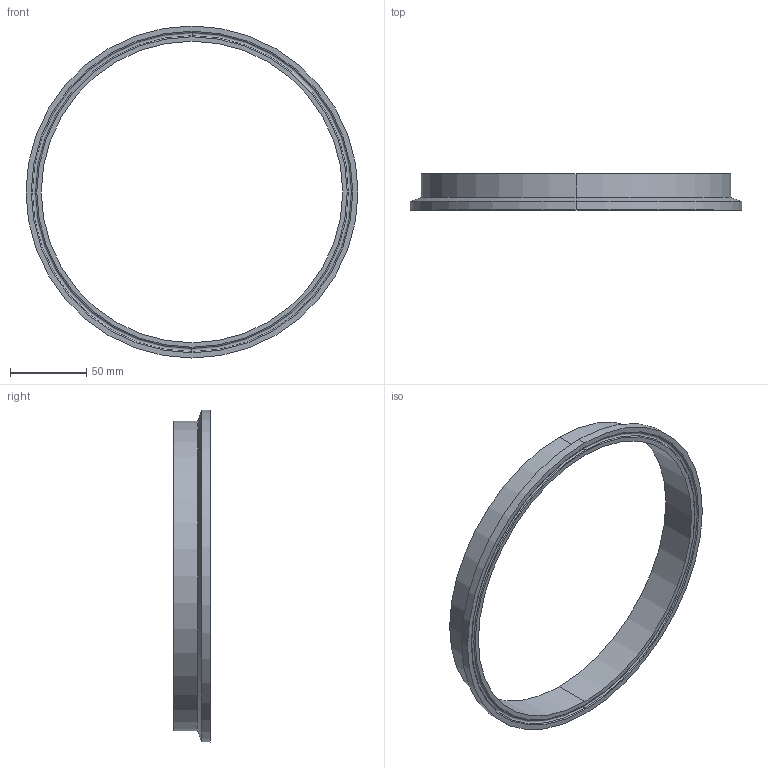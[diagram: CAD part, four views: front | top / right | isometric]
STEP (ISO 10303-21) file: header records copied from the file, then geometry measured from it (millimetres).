
FILE_DESCRIPTION (( 'STEP AP203' ), '1' );
FILE_NAME ('EG2CS8.0.STEP', '2018-04-30T13:56:24', ( 'vneprd' ), ( 'Microsoft' ), 'SwSTEP 2.0', 'SolidWorks 2014', '' );
FILE_SCHEMA (( 'CONFIG_CONTROL_DESIGN' ));
Length unit declared in the file: inch
Products named in the file (1): EG2CS8.0
Bounding box: 217.68 x 23.83 x 217.68 mm (x, y, z)
Volume: 72969.8 mm3; surface area: 42572.2 mm2
Topology: 1 solids, 1 shells, 17 faces, 34 edges, 20 vertices
Faces by surface type: cylinder 6, torus 6, plane 3, cone 2
Entity records: 533 total; most frequent: DIRECTION 96, CARTESIAN_POINT 72, ORIENTED_EDGE 68, AXIS2_PLACEMENT_3D 44, EDGE_CURVE 34, CIRCLE 26, VERTEX_POINT 20, EDGE_LOOP 20
